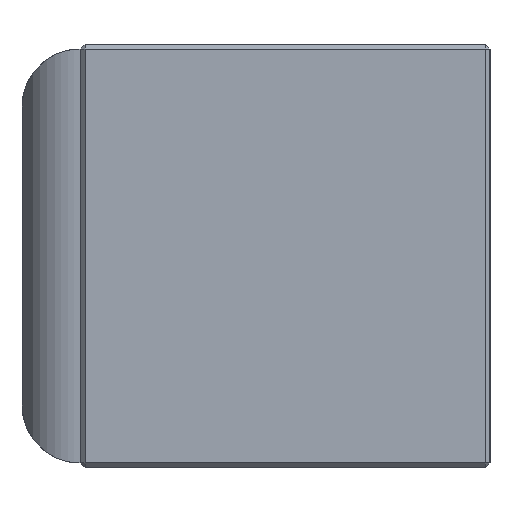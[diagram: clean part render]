
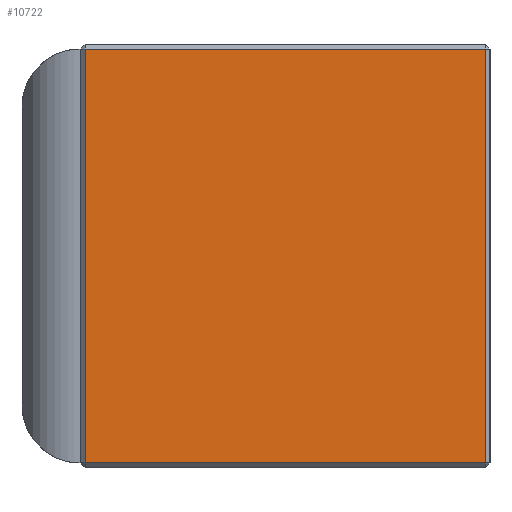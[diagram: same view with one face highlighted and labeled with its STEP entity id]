
A CAD part, left-side view. The second image highlights one B-rep face of the part: STEP entity #10722.
In plain terms, the highlighted planar face has unit normal (-1, 0, 0).
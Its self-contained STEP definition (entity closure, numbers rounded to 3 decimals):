
#92 = VERTEX_POINT ( 'NONE', #6995 ) ;
#129 = LINE ( 'NONE', #5305, #8011 ) ;
#196 = CARTESIAN_POINT ( 'NONE',  ( -22.4, 4.55, 4.6 ) ) ;
#520 = DIRECTION ( 'NONE',  ( 0., -1., 0. ) ) ;
#630 = CARTESIAN_POINT ( 'NONE',  ( -22.4, 4.45, -4.6 ) ) ;
#679 = CARTESIAN_POINT ( 'NONE',  ( -22.4, -4.45, 4.6 ) ) ;
#1056 = CARTESIAN_POINT ( 'NONE',  ( -22.4, -4.45, -4.6 ) ) ;
#1126 = LINE ( 'NONE', #196, #8153 ) ;
#1444 = LINE ( 'NONE', #3949, #4628 ) ;
#1870 = LINE ( 'NONE', #7102, #6350 ) ;
#2573 = VERTEX_POINT ( 'NONE', #630 ) ;
#2821 = EDGE_CURVE ( 'NONE', #10397, #92, #1126, .T. ) ;
#2898 = ORIENTED_EDGE ( 'NONE', *, *, #9542, .T. ) ;
#3235 = ORIENTED_EDGE ( 'NONE', *, *, #9369, .T. ) ;
#3527 = EDGE_CURVE ( 'NONE', #2573, #9491, #1444, .T. ) ;
#3949 = CARTESIAN_POINT ( 'NONE',  ( -22.4, 4.55, -4.6 ) ) ;
#4557 = CARTESIAN_POINT ( 'NONE',  ( -22.4, 4.55, 4.7 ) ) ;
#4628 = VECTOR ( 'NONE', #520, 1000. ) ;
#4669 = DIRECTION ( 'NONE',  ( 0., 1., 0. ) ) ;
#5305 = CARTESIAN_POINT ( 'NONE',  ( -22.4, -4.45, 4.7 ) ) ;
#6350 = VECTOR ( 'NONE', #8960, 1000. ) ;
#6532 = PLANE ( 'NONE',  #7443 ) ;
#6995 = CARTESIAN_POINT ( 'NONE',  ( -22.4, 4.45, 4.6 ) ) ;
#7102 = CARTESIAN_POINT ( 'NONE',  ( -22.4, 4.45, 4.7 ) ) ;
#7443 = AXIS2_PLACEMENT_3D ( 'NONE', #4557, #9037, #8100 ) ;
#8011 = VECTOR ( 'NONE', #10706, 1000. ) ;
#8100 = DIRECTION ( 'NONE',  ( 0., 1., 0. ) ) ;
#8153 = VECTOR ( 'NONE', #4669, 1000. ) ;
#8287 = ORIENTED_EDGE ( 'NONE', *, *, #3527, .T. ) ;
#8960 = DIRECTION ( 'NONE',  ( 0., 0., -1. ) ) ;
#9037 = DIRECTION ( 'NONE',  ( 1., 0., 0. ) ) ;
#9369 = EDGE_CURVE ( 'NONE', #92, #2573, #1870, .T. ) ;
#9491 = VERTEX_POINT ( 'NONE', #1056 ) ;
#9512 = ORIENTED_EDGE ( 'NONE', *, *, #2821, .T. ) ;
#9542 = EDGE_CURVE ( 'NONE', #9491, #10397, #129, .T. ) ;
#10029 = FACE_OUTER_BOUND ( 'NONE', #11155, .T. ) ;
#10397 = VERTEX_POINT ( 'NONE', #679 ) ;
#10706 = DIRECTION ( 'NONE',  ( 0., 0., 1. ) ) ;
#10722 = ADVANCED_FACE ( 'NONE', ( #10029 ), #6532, .F. ) ;
#11155 = EDGE_LOOP ( 'NONE', ( #9512, #3235, #8287, #2898 ) ) ;
